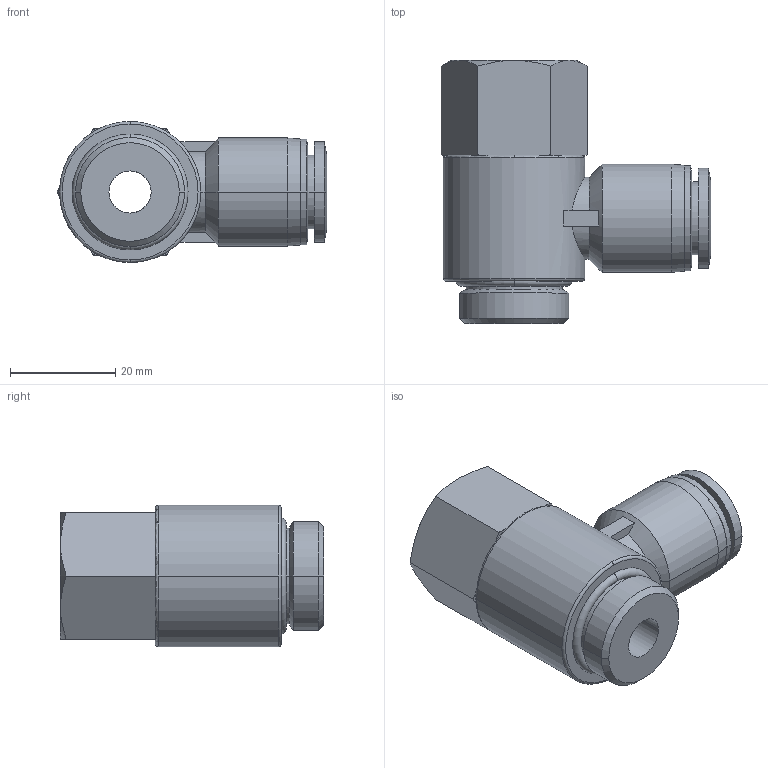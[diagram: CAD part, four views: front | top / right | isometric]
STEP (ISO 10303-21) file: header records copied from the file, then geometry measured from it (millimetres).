
FILE_DESCRIPTION (( 'STEP AP203' ), '1' );
FILE_NAME ('FVF12-04.STEP', '2020-05-11T14:31:01', ( '' ), ( '' ), 'SwSTEP 2.0', 'SolidWorks 2019', '' );
FILE_SCHEMA (( 'CONFIG_CONTROL_DESIGN' ));
Length unit declared in the file: millimetre
Products named in the file (1): FVF12-04
Bounding box: 51.21 x 49.9 x 26.8 mm (x, y, z)
Volume: 22023.5 mm3; surface area: 10061.4 mm2
Topology: 1 solids, 1 shells, 92 faces, 219 edges, 134 vertices
Faces by surface type: plane 33, cone 26, cylinder 25, torus 6, bspline 2
Entity records: 2916 total; most frequent: CARTESIAN_POINT 740, DIRECTION 467, ORIENTED_EDGE 438, EDGE_CURVE 219, AXIS2_PLACEMENT_3D 197, VERTEX_POINT 134, CIRCLE 106, EDGE_LOOP 101
